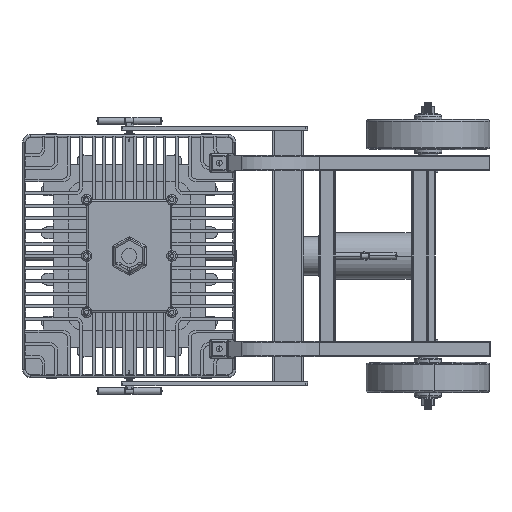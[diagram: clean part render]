
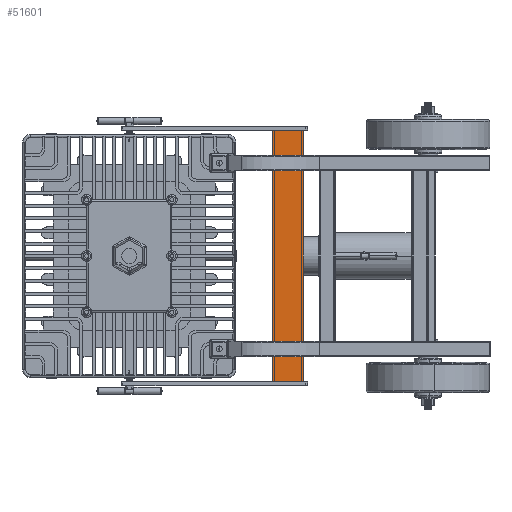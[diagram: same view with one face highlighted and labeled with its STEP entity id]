
A CAD part, left-side view. The second image highlights one B-rep face of the part: STEP entity #51601.
In plain terms, the highlighted planar face has unit normal (-1, 0.013, 0) as drawn and (0, 0, -1) by its records, which use the part's own axes.
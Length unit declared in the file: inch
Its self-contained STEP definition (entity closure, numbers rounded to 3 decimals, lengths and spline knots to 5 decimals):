
#3643 = CARTESIAN_POINT ( 'NONE',  ( -8.125, -1., -1. ) ) ;
#8920 = EDGE_CURVE ( 'NONE', #21875, #41672, #82027, .T. ) ;
#10126 = AXIS2_PLACEMENT_3D ( 'NONE', #63088, #79735, #30070 ) ;
#16031 = VECTOR ( 'NONE', #26250, 39.37008 ) ;
#17530 = EDGE_CURVE ( 'NONE', #40738, #21875, #106289, .T. ) ;
#18475 = EDGE_CURVE ( 'NONE', #47386, #41672, #25615, .T. ) ;
#19282 = ORIENTED_EDGE ( 'NONE', *, *, #8920, .F. ) ;
#21252 = DIRECTION ( 'NONE',  ( 0., 1., 0. ) ) ;
#21875 = VERTEX_POINT ( 'NONE', #50016 ) ;
#22457 = EDGE_CURVE ( 'NONE', #40738, #47386, #79643, .T. ) ;
#25011 = CARTESIAN_POINT ( 'NONE',  ( -8.125, 1., -1. ) ) ;
#25615 = LINE ( 'NONE', #3643, #28242 ) ;
#26250 = DIRECTION ( 'NONE',  ( -1., 0., 0. ) ) ;
#27882 = FACE_OUTER_BOUND ( 'NONE', #51376, .T. ) ;
#27969 = DIRECTION ( 'NONE',  ( 0., 1., 0. ) ) ;
#28242 = VECTOR ( 'NONE', #27969, 39.37008 ) ;
#30070 = DIRECTION ( 'NONE',  ( 1., 0., 0. ) ) ;
#37882 = VECTOR ( 'NONE', #60260, 39.37008 ) ;
#37926 = CARTESIAN_POINT ( 'NONE',  ( 8.125, -1., -1. ) ) ;
#38795 = ORIENTED_EDGE ( 'NONE', *, *, #18475, .T. ) ;
#40738 = VERTEX_POINT ( 'NONE', #102164 ) ;
#41672 = VERTEX_POINT ( 'NONE', #25011 ) ;
#42646 = VECTOR ( 'NONE', #21252, 39.37008 ) ;
#43161 = CARTESIAN_POINT ( 'NONE',  ( 8.125, 1., -1. ) ) ;
#47386 = VERTEX_POINT ( 'NONE', #103115 ) ;
#50016 = CARTESIAN_POINT ( 'NONE',  ( 8.125, 1., -1. ) ) ;
#51376 = EDGE_LOOP ( 'NONE', ( #38795, #19282, #85084, #59071 ) ) ;
#51601 = ADVANCED_FACE ( 'NONE', ( #27882 ), #71417, .F. ) ;
#59071 = ORIENTED_EDGE ( 'NONE', *, *, #22457, .T. ) ;
#60260 = DIRECTION ( 'NONE',  ( -1., 0., 0. ) ) ;
#63088 = CARTESIAN_POINT ( 'NONE',  ( 8.125, -1., -1. ) ) ;
#67634 = CARTESIAN_POINT ( 'NONE',  ( 8.125, -1., -1. ) ) ;
#71417 = PLANE ( 'NONE',  #10126 ) ;
#79643 = LINE ( 'NONE', #67634, #16031 ) ;
#79735 = DIRECTION ( 'NONE',  ( 0., 0., 1. ) ) ;
#82027 = LINE ( 'NONE', #43161, #37882 ) ;
#85084 = ORIENTED_EDGE ( 'NONE', *, *, #17530, .F. ) ;
#102164 = CARTESIAN_POINT ( 'NONE',  ( 8.125, -1., -1. ) ) ;
#103115 = CARTESIAN_POINT ( 'NONE',  ( -8.125, -1., -1. ) ) ;
#106289 = LINE ( 'NONE', #37926, #42646 ) ;
